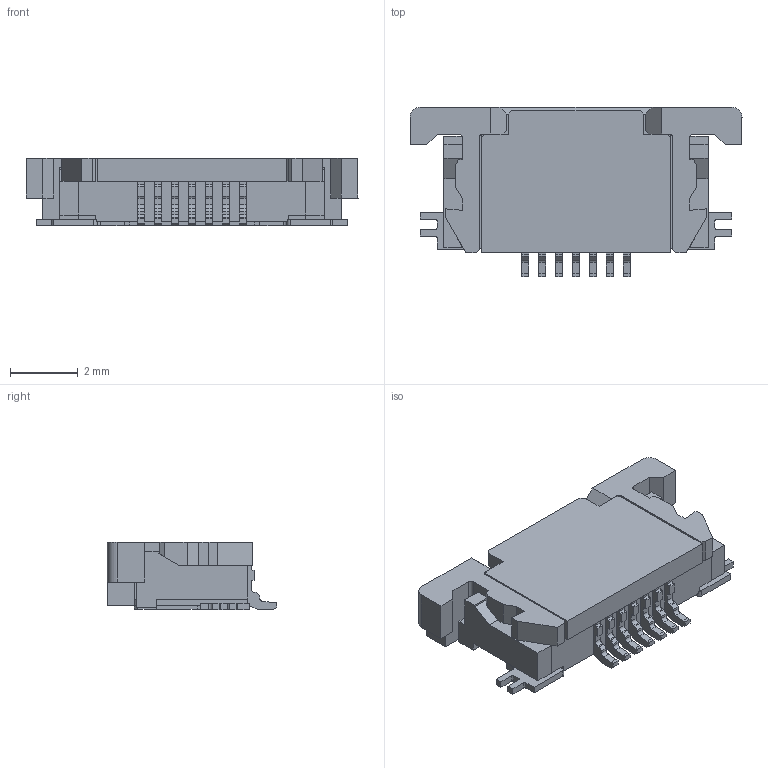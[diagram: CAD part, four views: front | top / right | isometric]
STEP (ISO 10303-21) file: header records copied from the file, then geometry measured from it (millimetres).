
FILE_DESCRIPTION (( 'STEP AP214' ), '1' );
FILE_NAME ('006212007340.STEP', '2023-03-30T02:16:42', ( '' ), ( '' ), 'SwSTEP 2.0', 'SolidWorks 2021', '' );
FILE_SCHEMA (( 'AUTOMOTIVE_DESIGN' ));
Length unit declared in the file: millimetre
Products named in the file (1): 006212007340
Bounding box: 9.8 x 5 x 2 mm (x, y, z)
Volume: 58.7 mm3; surface area: 186.9 mm2
Topology: 1 solids, 1 shells, 321 faces, 946 edges, 628 vertices
Faces by surface type: plane 273, cylinder 48
Entity records: 10592 total; most frequent: CARTESIAN_POINT 1896, ORIENTED_EDGE 1892, DIRECTION 1692, EDGE_CURVE 946, VECTOR 844, LINE 844, VERTEX_POINT 628, AXIS2_PLACEMENT_3D 424
